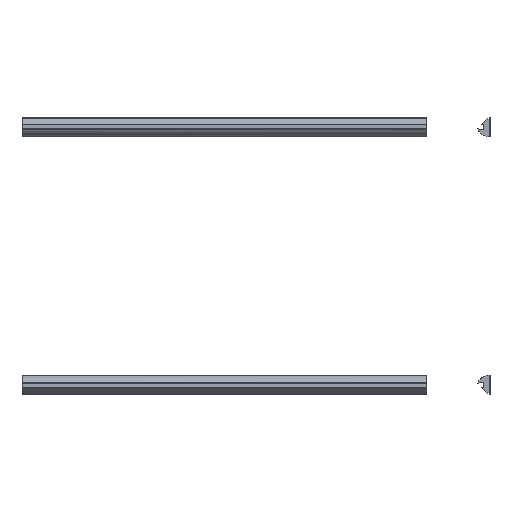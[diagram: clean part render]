
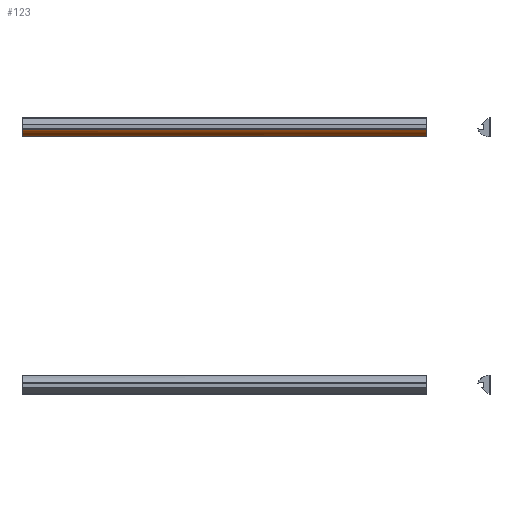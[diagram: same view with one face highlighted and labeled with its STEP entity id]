
A CAD part, left-side view. The second image highlights one B-rep face of the part: STEP entity #123.
In plain terms, the highlighted free-form (B-spline) face has degree [2, 1] with [3, 2] control points.
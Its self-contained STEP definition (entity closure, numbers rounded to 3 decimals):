
#123=ADVANCED_FACE('',(#233),#3673,.T.);
#233=FACE_OUTER_BOUND('',#343,.T.);
#343=EDGE_LOOP('',(#453,#454,#455,#456));
#453=ORIENTED_EDGE('',*,*,#2993,.T.);
#454=ORIENTED_EDGE('',*,*,#2994,.T.);
#455=ORIENTED_EDGE('',*,*,#2995,.T.);
#456=ORIENTED_EDGE('',*,*,#2996,.T.);
#993=PCURVE('',#3673,#1533);
#994=PCURVE('',#3673,#1534);
#995=PCURVE('',#3673,#1535);
#996=PCURVE('',#3673,#1536);
#1014=PCURVE('',#3675,#1554);
#1017=PCURVE('',#3606,#1557);
#1029=PCURVE('',#3676,#1569);
#1046=PCURVE('',#3609,#1586);
#1533=DEFINITIONAL_REPRESENTATION('',(#2073),#6260);
#1534=DEFINITIONAL_REPRESENTATION('',(#2074),#6260);
#1535=DEFINITIONAL_REPRESENTATION('',(#2075),#6260);
#1536=DEFINITIONAL_REPRESENTATION('',(#2076),#6260);
#1554=DEFINITIONAL_REPRESENTATION('',(#2104),#6260);
#1557=DEFINITIONAL_REPRESENTATION('',(#3273),#6260);
#1569=DEFINITIONAL_REPRESENTATION('',(#2118),#6260);
#1586=DEFINITIONAL_REPRESENTATION('',(#2137),#6260);
#2073=B_SPLINE_CURVE_WITH_KNOTS('',1,(#3931,#3932),.UNSPECIFIED.,.F.,.F.,
(2,2),(0.,7.218),.UNSPECIFIED.);
#2074=B_SPLINE_CURVE_WITH_KNOTS('',1,(#3935,#3936),.UNSPECIFIED.,.F.,.F.,
(2,2),(630.,790.),.UNSPECIFIED.);
#2075=B_SPLINE_CURVE_WITH_KNOTS('',1,(#3940,#3941),.UNSPECIFIED.,.F.,.F.,
(2,2),(-7.218,0.),.UNSPECIFIED.);
#2076=B_SPLINE_CURVE_WITH_KNOTS('',1,(#3944,#3945),.UNSPECIFIED.,.F.,.F.,
(2,2),(-790.,-630.),.UNSPECIFIED.);
#2104=B_SPLINE_CURVE_WITH_KNOTS('',1,(#4013,#4014),.UNSPECIFIED.,.F.,.F.,
(2,2),(-790.,-630.),.UNSPECIFIED.);
#2118=B_SPLINE_CURVE_WITH_KNOTS('',1,(#4062,#4063),.UNSPECIFIED.,.F.,.F.,
(2,2),(630.,790.),.UNSPECIFIED.);
#2137=B_SPLINE_CURVE_WITH_KNOTS('',3,(#4110,#4111,#4112,#4113,#4114,#4115,
#4116),.UNSPECIFIED.,.F.,.F.,(4,3,4),(0.,4.495,7.218),
 .UNSPECIFIED.);
#2723=SURFACE_CURVE('',#3263,(#993,#1046),.PCURVE_S1.);
#2724=SURFACE_CURVE('',#3264,(#994,#1029),.PCURVE_S1.);
#2725=SURFACE_CURVE('',#3265,(#995,#1017),.PCURVE_S1.);
#2726=SURFACE_CURVE('',#3266,(#996,#1014),.PCURVE_S1.);
#2993=EDGE_CURVE('',#3432,#3433,#2723,.T.);
#2994=EDGE_CURVE('',#3433,#3423,#2724,.T.);
#2995=EDGE_CURVE('',#3423,#3424,#2725,.T.);
#2996=EDGE_CURVE('',#3424,#3432,#2726,.T.);
#3263=(
BOUNDED_CURVE()
B_SPLINE_CURVE(2,(#3928,#3929,#3930),.UNSPECIFIED.,.F.,.F.)
B_SPLINE_CURVE_WITH_KNOTS((3,3),(0.,7.218),.UNSPECIFIED.)
CURVE()
GEOMETRIC_REPRESENTATION_ITEM()
RATIONAL_B_SPLINE_CURVE((1.,0.86,1.))
REPRESENTATION_ITEM('')
);
#3264=(
BOUNDED_CURVE()
B_SPLINE_CURVE(1,(#3933,#3934),.UNSPECIFIED.,.F.,.F.)
B_SPLINE_CURVE_WITH_KNOTS((2,2),(630.,790.),.UNSPECIFIED.)
CURVE()
GEOMETRIC_REPRESENTATION_ITEM()
RATIONAL_B_SPLINE_CURVE((1.,1.))
REPRESENTATION_ITEM('')
);
#3265=(
BOUNDED_CURVE()
B_SPLINE_CURVE(2,(#3937,#3938,#3939),.UNSPECIFIED.,.F.,.F.)
B_SPLINE_CURVE_WITH_KNOTS((3,3),(-7.218,0.),.UNSPECIFIED.)
CURVE()
GEOMETRIC_REPRESENTATION_ITEM()
RATIONAL_B_SPLINE_CURVE((1.,0.86,1.))
REPRESENTATION_ITEM('')
);
#3266=(
BOUNDED_CURVE()
B_SPLINE_CURVE(1,(#3942,#3943),.UNSPECIFIED.,.F.,.F.)
B_SPLINE_CURVE_WITH_KNOTS((2,2),(-790.,-630.),.UNSPECIFIED.)
CURVE()
GEOMETRIC_REPRESENTATION_ITEM()
RATIONAL_B_SPLINE_CURVE((1.,1.))
REPRESENTATION_ITEM('')
);
#3273=(
BOUNDED_CURVE()
B_SPLINE_CURVE(2,(#4024,#4025,#4026),.UNSPECIFIED.,.F.,.F.)
B_SPLINE_CURVE_WITH_KNOTS((3,3),(-7.218,0.),.UNSPECIFIED.)
CURVE()
GEOMETRIC_REPRESENTATION_ITEM()
RATIONAL_B_SPLINE_CURVE((1.,0.86,1.))
REPRESENTATION_ITEM('')
);
#3423=VERTEX_POINT('',#3910);
#3424=VERTEX_POINT('',#3911);
#3432=VERTEX_POINT('',#3919);
#3433=VERTEX_POINT('',#3920);
#3606=PLANE('',#3736);
#3609=PLANE('',#3739);
#3673=(
BOUNDED_SURFACE()
B_SPLINE_SURFACE(2,1,((#3879,#3880),(#3881,#3882),(#3883,#3884)),
 .UNSPECIFIED.,.F.,.F.,.F.)
B_SPLINE_SURFACE_WITH_KNOTS((3,3),(2,2),(0.,7.218),(0.,790.),
 .UNSPECIFIED.)
GEOMETRIC_REPRESENTATION_ITEM()
RATIONAL_B_SPLINE_SURFACE(((1.,1.),(0.86,0.86),
(1.,1.)))
REPRESENTATION_ITEM('')
SURFACE()
);
#3675=(
BOUNDED_SURFACE()
B_SPLINE_SURFACE(2,1,((#3894,#3895),(#3896,#3897),(#3898,#3899)),
 .UNSPECIFIED.,.F.,.F.,.F.)
B_SPLINE_SURFACE_WITH_KNOTS((3,3),(2,2),(27.73,27.967),
(0.,790.),.UNSPECIFIED.)
GEOMETRIC_REPRESENTATION_ITEM()
RATIONAL_B_SPLINE_SURFACE(((1.,1.),(0.99,0.99),
(1.,1.)))
REPRESENTATION_ITEM('')
SURFACE()
);
#3676=(
BOUNDED_SURFACE()
B_SPLINE_SURFACE(2,1,((#3901,#3902),(#3903,#3904),(#3905,#3906)),
 .UNSPECIFIED.,.F.,.F.,.F.)
B_SPLINE_SURFACE_WITH_KNOTS((3,3),(2,2),(7.218,10.229),
(0.,790.),.UNSPECIFIED.)
GEOMETRIC_REPRESENTATION_ITEM()
RATIONAL_B_SPLINE_SURFACE(((1.,1.),(0.999,0.999),
(1.,1.)))
REPRESENTATION_ITEM('')
SURFACE()
);
#3736=AXIS2_PLACEMENT_3D('',#3900,#3809,$);
#3739=AXIS2_PLACEMENT_3D('',#3909,#3812,$);
#3809=DIRECTION('',(0.,1.,0.));
#3812=DIRECTION('',(0.,-1.,0.));
#3879=CARTESIAN_POINT('',(822.792,-393.125,-44.));
#3880=CARTESIAN_POINT('',(822.792,545.,-44.));
#3881=CARTESIAN_POINT('',(818.798,-393.125,-43.832));
#3882=CARTESIAN_POINT('',(818.798,545.,-43.832));
#3883=CARTESIAN_POINT('',(817.025,-393.125,-40.25));
#3884=CARTESIAN_POINT('',(817.025,545.,-40.25));
#3894=CARTESIAN_POINT('',(823.025,-393.125,-43.967));
#3895=CARTESIAN_POINT('',(823.025,545.,-43.967));
#3896=CARTESIAN_POINT('',(822.911,-393.125,-44.));
#3897=CARTESIAN_POINT('',(822.911,545.,-44.));
#3898=CARTESIAN_POINT('',(822.792,-393.125,-44.));
#3899=CARTESIAN_POINT('',(822.792,545.,-44.));
#3900=CARTESIAN_POINT('',(816.275,545.,-33.875));
#3901=CARTESIAN_POINT('',(817.025,-393.125,-40.25));
#3902=CARTESIAN_POINT('',(817.025,545.,-40.25));
#3903=CARTESIAN_POINT('',(818.52,-393.125,-40.438));
#3904=CARTESIAN_POINT('',(818.52,545.,-40.438));
#3905=CARTESIAN_POINT('',(820.025,-393.125,-40.5));
#3906=CARTESIAN_POINT('',(820.025,545.,-40.5));
#3909=CARTESIAN_POINT('',(813.025,355.,-308.));
#3910=CARTESIAN_POINT('',(817.025,545.,-40.25));
#3911=CARTESIAN_POINT('',(822.792,545.,-44.));
#3919=CARTESIAN_POINT('',(822.792,355.,-44.));
#3920=CARTESIAN_POINT('',(817.025,355.,-40.25));
#3928=CARTESIAN_POINT('',(822.792,355.,-44.));
#3929=CARTESIAN_POINT('',(818.798,355.,-43.832));
#3930=CARTESIAN_POINT('',(817.025,355.,-40.25));
#3931=CARTESIAN_POINT('',(0.,630.));
#3932=CARTESIAN_POINT('',(7.218,630.));
#3933=CARTESIAN_POINT('',(817.025,355.,-40.25));
#3934=CARTESIAN_POINT('',(817.025,545.,-40.25));
#3935=CARTESIAN_POINT('',(7.218,630.));
#3936=CARTESIAN_POINT('',(7.218,790.));
#3937=CARTESIAN_POINT('',(817.025,545.,-40.25));
#3938=CARTESIAN_POINT('',(818.798,545.,-43.832));
#3939=CARTESIAN_POINT('',(822.792,545.,-44.));
#3940=CARTESIAN_POINT('',(7.218,790.));
#3941=CARTESIAN_POINT('',(0.,790.));
#3942=CARTESIAN_POINT('',(822.792,545.,-44.));
#3943=CARTESIAN_POINT('',(822.792,355.,-44.));
#3944=CARTESIAN_POINT('',(0.,790.));
#3945=CARTESIAN_POINT('',(0.,630.));
#4013=CARTESIAN_POINT('',(27.967,790.));
#4014=CARTESIAN_POINT('',(27.967,630.));
#4024=CARTESIAN_POINT('',(-5.767,-3.75));
#4025=CARTESIAN_POINT('',(-3.994,-0.168));
#4026=CARTESIAN_POINT('',(0.,0.));
#4062=CARTESIAN_POINT('',(7.218,630.));
#4063=CARTESIAN_POINT('',(7.218,790.));
#4110=CARTESIAN_POINT('',(147.767,264.));
#4111=CARTESIAN_POINT('',(146.666,264.046));
#4112=CARTESIAN_POINT('',(145.472,264.369));
#4113=CARTESIAN_POINT('',(144.37,265.085));
#4114=CARTESIAN_POINT('',(143.702,265.519));
#4115=CARTESIAN_POINT('',(142.694,266.348));
#4116=CARTESIAN_POINT('',(142.,267.75));
#6260=(
GEOMETRIC_REPRESENTATION_CONTEXT(2)
PARAMETRIC_REPRESENTATION_CONTEXT()
REPRESENTATION_CONTEXT('pspace','')
);
